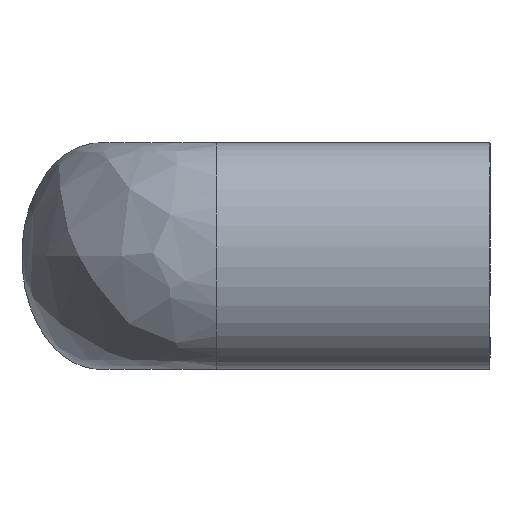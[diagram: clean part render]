
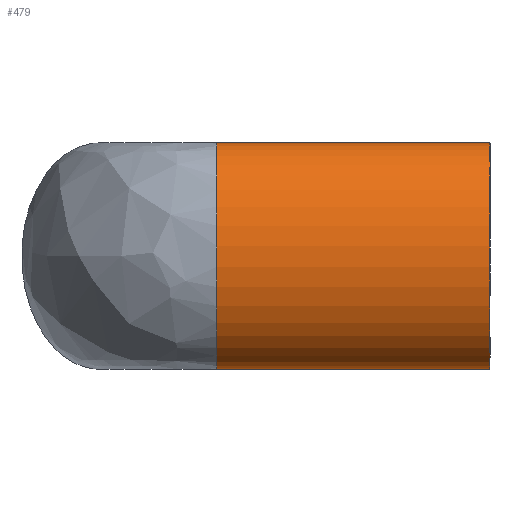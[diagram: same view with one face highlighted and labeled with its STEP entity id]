
A CAD part, left-side view. The second image highlights one B-rep face of the part: STEP entity #479.
In plain terms, the highlighted free-form (B-spline) face has degree [3, 1] with [4, 2] control points.
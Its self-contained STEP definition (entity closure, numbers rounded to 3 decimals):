
#18 = CARTESIAN_POINT ( 'NONE',  ( -110., -50., 14.5 ) ) ;
#30 = CARTESIAN_POINT ( 'NONE',  ( -110., -50., -14.5 ) ) ;
#40 = EDGE_CURVE ( 'NONE', #41, #552, #93, .T. ) ;
#41 = VERTEX_POINT ( 'NONE', #270 ) ;
#42 = DIRECTION ( 'NONE',  ( 0., -1., 0. ) ) ;
#46 = CARTESIAN_POINT ( 'NONE',  ( -110., -15., 14.5 ) ) ;
#56 = CARTESIAN_POINT ( 'NONE',  ( -110., -15., -14.5 ) ) ;
#68 = CARTESIAN_POINT ( 'NONE',  ( -90., -15., 14.5 ) ) ;
#71 = CARTESIAN_POINT ( 'NONE',  ( -90., -15., -14.5 ) ) ;
#74 = CARTESIAN_POINT ( 'NONE',  ( -90., -15., 14.5 ) ) ;
#77 = CARTESIAN_POINT ( 'NONE',  ( -90., -15., -14.5 ) ) ;
#86 = EDGE_LOOP ( 'NONE', ( #154, #401, #413, #412 ) ) ;
#93 =( BOUNDED_CURVE ( )  B_SPLINE_CURVE ( 3, ( #428, #18, #30, #220 ),
 .UNSPECIFIED., .F., .F. ) 
 B_SPLINE_CURVE_WITH_KNOTS ( ( 4, 4 ),
 ( 3.142, 6.283 ),
 .UNSPECIFIED. ) 
 CURVE ( )  GEOMETRIC_REPRESENTATION_ITEM ( )  RATIONAL_B_SPLINE_CURVE ( ( 1., 0.333, 0.333, 1. ) ) 
 REPRESENTATION_ITEM ( '' )  );
#122 =( BOUNDED_CURVE ( )  B_SPLINE_CURVE ( 3, ( #68, #46, #56, #71 ),
 .UNSPECIFIED., .F., .F. ) 
 B_SPLINE_CURVE_WITH_KNOTS ( ( 4, 4 ),
 ( 3.142, 6.283 ),
 .UNSPECIFIED. ) 
 CURVE ( )  GEOMETRIC_REPRESENTATION_ITEM ( )  RATIONAL_B_SPLINE_CURVE ( ( 1., 0.333, 0.333, 1. ) ) 
 REPRESENTATION_ITEM ( '' )  );
#139 = EDGE_CURVE ( 'NONE', #630, #41, #587, .T. ) ;
#154 = ORIENTED_EDGE ( 'NONE', *, *, #139, .F. ) ;
#166 = CARTESIAN_POINT ( 'NONE',  ( -90., -50., -14.5 ) ) ;
#220 = CARTESIAN_POINT ( 'NONE',  ( -90., -50., -14.5 ) ) ;
#224 =( BOUNDED_SURFACE ( )  B_SPLINE_SURFACE ( 3, 1, ( 
 ( #343, #368 ),
 ( #458, #391 ),
 ( #394, #395 ),
 ( #490, #400 ) ),
 .UNSPECIFIED., .F., .F., .T. ) 
 B_SPLINE_SURFACE_WITH_KNOTS ( ( 4, 4 ),
 ( 2, 2 ),
 ( 0., 1. ),
 ( 0., 1. ),
 .UNSPECIFIED. ) 
 GEOMETRIC_REPRESENTATION_ITEM ( )  RATIONAL_B_SPLINE_SURFACE ( (
 ( 1., 1.),
 ( 0.333, 0.333),
 ( 0.333, 0.333),
 ( 1., 1.) ) ) 
 REPRESENTATION_ITEM ( '' )  SURFACE ( )  );
#257 = LINE ( 'NONE', #77, #500 ) ;
#270 = CARTESIAN_POINT ( 'NONE',  ( -90., -50., 14.5 ) ) ;
#299 = EDGE_CURVE ( 'NONE', #630, #654, #122, .T. ) ;
#313 = EDGE_CURVE ( 'NONE', #654, #552, #257, .T. ) ;
#321 = DIRECTION ( 'NONE',  ( 0., -1., 0. ) ) ;
#343 = CARTESIAN_POINT ( 'NONE',  ( -90., -15., 14.5 ) ) ;
#362 = FACE_OUTER_BOUND ( 'NONE', #86, .T. ) ;
#368 = CARTESIAN_POINT ( 'NONE',  ( -90., -50., 14.5 ) ) ;
#391 = CARTESIAN_POINT ( 'NONE',  ( -110., -50., 14.5 ) ) ;
#394 = CARTESIAN_POINT ( 'NONE',  ( -110., -15., -14.5 ) ) ;
#395 = CARTESIAN_POINT ( 'NONE',  ( -110., -50., -14.5 ) ) ;
#400 = CARTESIAN_POINT ( 'NONE',  ( -90., -50., -14.5 ) ) ;
#401 = ORIENTED_EDGE ( 'NONE', *, *, #299, .T. ) ;
#412 = ORIENTED_EDGE ( 'NONE', *, *, #40, .F. ) ;
#413 = ORIENTED_EDGE ( 'NONE', *, *, #313, .T. ) ;
#428 = CARTESIAN_POINT ( 'NONE',  ( -90., -50., 14.5 ) ) ;
#458 = CARTESIAN_POINT ( 'NONE',  ( -110., -15., 14.5 ) ) ;
#479 = ADVANCED_FACE ( 'NONE', ( #362 ), #224, .T. ) ;
#490 = CARTESIAN_POINT ( 'NONE',  ( -90., -15., -14.5 ) ) ;
#500 = VECTOR ( 'NONE', #42, 1000. ) ;
#533 = CARTESIAN_POINT ( 'NONE',  ( -90., -15., -14.5 ) ) ;
#552 = VERTEX_POINT ( 'NONE', #166 ) ;
#554 = VECTOR ( 'NONE', #321, 1000. ) ;
#555 = CARTESIAN_POINT ( 'NONE',  ( -90., -15., 14.5 ) ) ;
#587 = LINE ( 'NONE', #74, #554 ) ;
#630 = VERTEX_POINT ( 'NONE', #555 ) ;
#654 = VERTEX_POINT ( 'NONE', #533 ) ;
